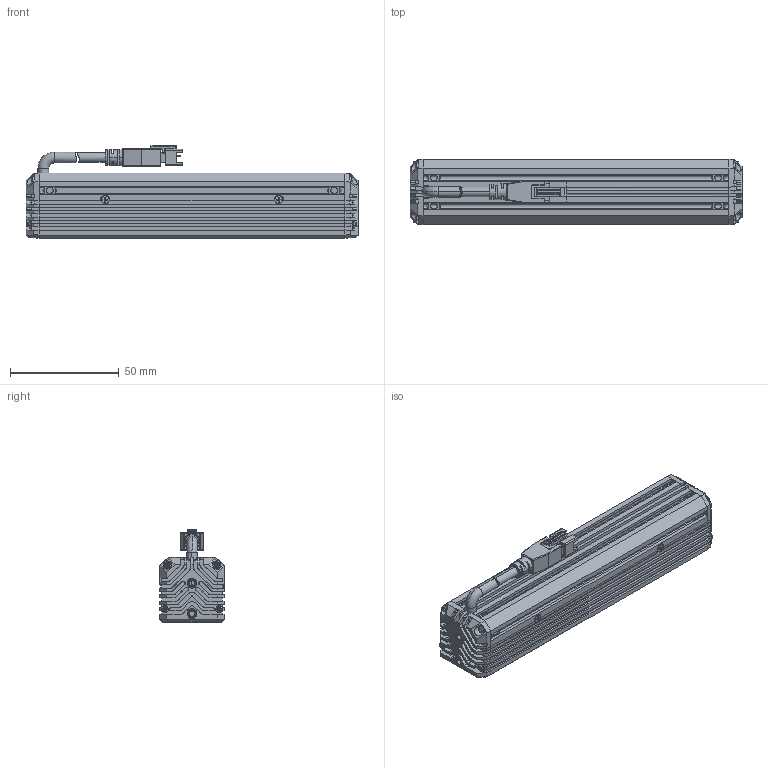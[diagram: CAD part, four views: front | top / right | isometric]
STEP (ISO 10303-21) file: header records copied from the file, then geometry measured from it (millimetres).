
FILE_DESCRIPTION((''),'2;1');
FILE_NAME('MV-LLDS-H-150-30-W-PL_ASM','2024-04-08T11:53:40',('huguozhe'),(''),'CREO PARAMETRIC BY PTC INC, 2020044','CREO PARAMETRIC BY PTC INC, 2020044','');
FILE_SCHEMA(('AUTOMOTIVE_DESIGN { 1 0 10303 214 1 1 1 1 }'));
Length unit declared in the file: millimetre
Products named in the file (15): DE-15-001254; DE-15-001253_ASM; DE-15-000474; DE-15-000473_ASM; DE-12-002271; TIP-M3X4-4_5X5-SO-ET-07061033; DE-12-002271_ASM; DE-12-001569; SC-KM2X6-BNI-GB819; XIANLAN_HEAD; CABLE_HEAD; CABLE_HEAD_ASM_ASM; 190100852; SC-PM2X6B-JMP; MV-LLDS-H-150-30-W-PL_ASM
Assembly tree (31 placements, depth 3):
  MV-LLDS-H-150-30-W-PL_ASM
    DE-15-001253_ASM
      DE-15-001254
    DE-15-000473_ASM
      DE-15-000474
    DE-12-002271_ASM  x2
      DE-12-002271
      TIP-M3X4-4_5X5-SO-ET-07061033
    DE-12-001569
    SC-KM2X6-BNI-GB819  x2
    CABLE_HEAD_ASM_ASM
      XIANLAN_HEAD
      CABLE_HEAD
    190100852  x8
    SC-PM2X6B-JMP  x8
Bounding box: 153 x 30 x 42.65 mm (x, y, z)
Volume: 106614.2 mm3; surface area: 64520.2 mm2
Topology: 29 solids, 61 shells, 2680 faces, 6950 edges, 4385 vertices
Faces by surface type: plane 1284, cylinder 578, bspline 472, cone 291, torus 46, sphere 8, extrusion 1
Entity records: 47150 total; most frequent: CARTESIAN_POINT 11056, ORIENTED_EDGE 6018, DIRECTION 5775, EDGE_CURVE 3037, VECTOR 1953, LINE 1952, VERTEX_POINT 1946, AXIS2_PLACEMENT_3D 1911
